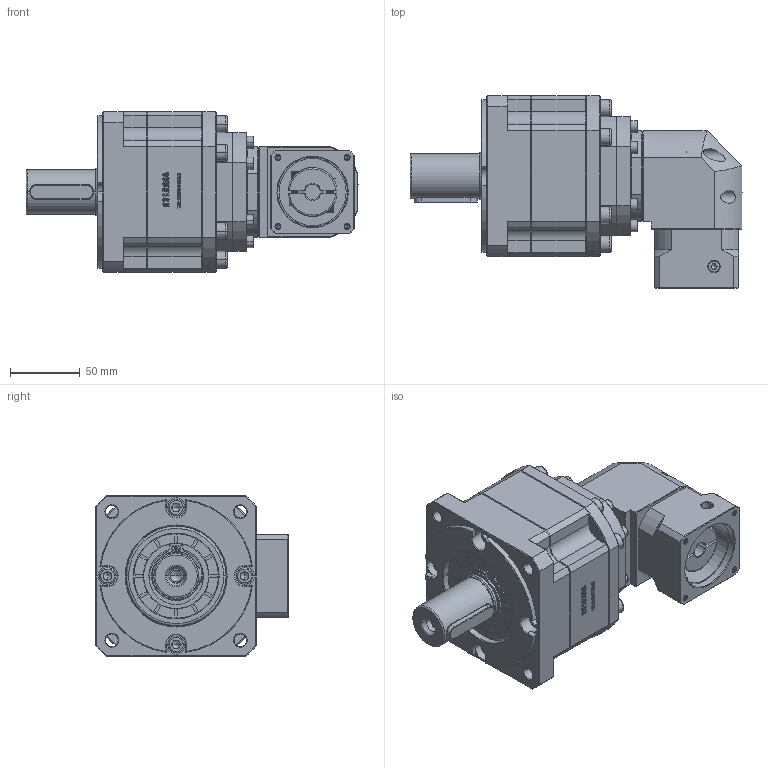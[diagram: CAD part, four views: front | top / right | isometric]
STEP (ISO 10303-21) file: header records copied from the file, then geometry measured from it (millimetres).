
FILE_DESCRIPTION (( 'STEP AP214' ), '1' );
FILE_NAME ('ZB115A-D32-L3-11-50-70-M4.step', '2023-03-03T08:03:24', ( '' ), ( 'Microsoft' ), 'SwSTEP 2.0', 'SolidWorks 2016', '' );
FILE_SCHEMA (( 'AUTOMOTIVE_DESIGN' ));
Length unit declared in the file: millimetre
Products named in the file (1): ZB115A-D32-L3-11-50-70-M4
Bounding box: 237.5 x 137.7 x 115 mm (x, y, z)
Volume: 1567867.7 mm3; surface area: 145841.7 mm2
Topology: 6 solids, 6 shells, 3231 faces, 8606 edges, 5537 vertices
Faces by surface type: plane 1719, bspline 625, cylinder 477, cone 390, torus 20
Entity records: 168359 total; most frequent: CARTESIAN_POINT 57140, ORIENTED_EDGE 17088, DIRECTION 13341, EDGE_CURVE 8544, LINE 5661, VECTOR 5661, VERTEX_POINT 5537, AXIS2_PLACEMENT_3D 3840
